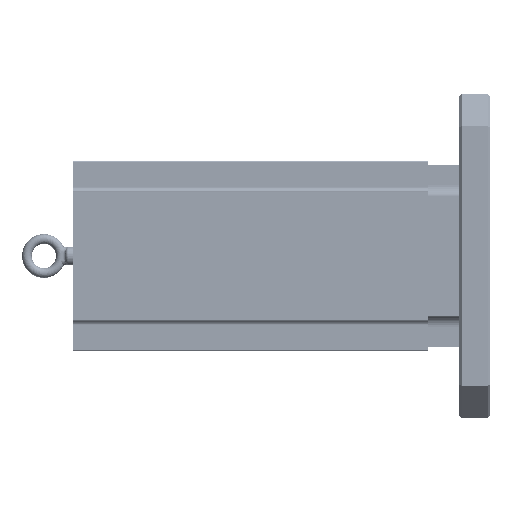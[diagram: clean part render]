
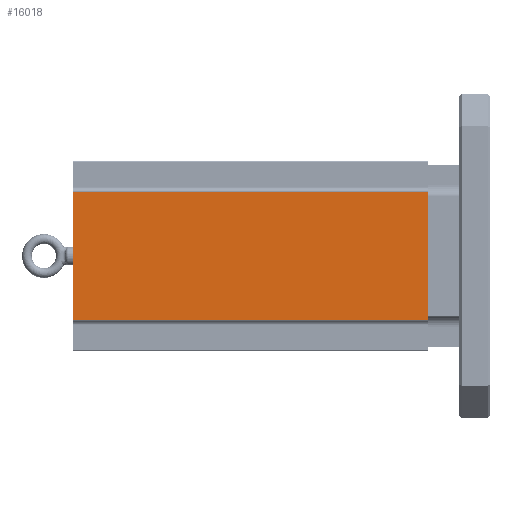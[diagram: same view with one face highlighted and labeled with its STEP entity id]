
A CAD part, left-side view. The second image highlights one B-rep face of the part: STEP entity #16018.
In plain terms, the highlighted planar face has unit normal (-1, 0, 0).
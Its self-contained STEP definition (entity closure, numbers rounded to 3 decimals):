
#2206 = CARTESIAN_POINT ( 'NONE',  ( -116.992, 477., 78.511 ) ) ;
#2559 = VECTOR ( 'NONE', #7836, 1000. ) ;
#2673 = DIRECTION ( 'NONE',  ( 0., 0., -1. ) ) ;
#4322 = CARTESIAN_POINT ( 'NONE',  ( -116.992, 477., -79.273 ) ) ;
#6578 = LINE ( 'NONE', #16836, #26411 ) ;
#6759 = EDGE_CURVE ( 'NONE', #19067, #8105, #30926, .T. ) ;
#7836 = DIRECTION ( 'NONE',  ( 0., 1., 0. ) ) ;
#8072 = DIRECTION ( 'NONE',  ( 1., 0., 0. ) ) ;
#8105 = VERTEX_POINT ( 'NONE', #26672 ) ;
#10070 = CARTESIAN_POINT ( 'NONE',  ( -116.992, 38.1, 78.511 ) ) ;
#10299 = PLANE ( 'NONE',  #23777 ) ;
#11392 = ORIENTED_EDGE ( 'NONE', *, *, #20753, .T. ) ;
#13711 = EDGE_CURVE ( 'NONE', #19067, #31861, #28656, .T. ) ;
#13828 = EDGE_CURVE ( 'NONE', #21363, #8105, #6578, .T. ) ;
#14372 = DIRECTION ( 'NONE',  ( 0., -1., 0. ) ) ;
#15383 = ORIENTED_EDGE ( 'NONE', *, *, #13711, .F. ) ;
#16018 = ADVANCED_FACE ( 'NONE', ( #27906 ), #10299, .F. ) ;
#16836 = CARTESIAN_POINT ( 'NONE',  ( -116.992, 477., -79.273 ) ) ;
#17344 = CARTESIAN_POINT ( 'NONE',  ( -116.992, 38.1, -78.511 ) ) ;
#19067 = VERTEX_POINT ( 'NONE', #10070 ) ;
#19303 = VECTOR ( 'NONE', #2673, 1000. ) ;
#20161 = CARTESIAN_POINT ( 'NONE',  ( -116.992, 477., -78.511 ) ) ;
#20753 = EDGE_CURVE ( 'NONE', #21363, #31861, #29609, .T. ) ;
#21144 = CARTESIAN_POINT ( 'NONE',  ( -116.992, 38.1, -79.273 ) ) ;
#21363 = VERTEX_POINT ( 'NONE', #20161 ) ;
#22481 = ORIENTED_EDGE ( 'NONE', *, *, #13828, .F. ) ;
#23777 = AXIS2_PLACEMENT_3D ( 'NONE', #4322, #8072, #23977 ) ;
#23977 = DIRECTION ( 'NONE',  ( 0., 0., -1. ) ) ;
#24990 = CARTESIAN_POINT ( 'NONE',  ( -116.992, 477., -78.511 ) ) ;
#25721 = EDGE_LOOP ( 'NONE', ( #15383, #28866, #22481, #11392 ) ) ;
#26411 = VECTOR ( 'NONE', #27099, 1000. ) ;
#26672 = CARTESIAN_POINT ( 'NONE',  ( -116.992, 477., 78.511 ) ) ;
#27099 = DIRECTION ( 'NONE',  ( 0., 0., 1. ) ) ;
#27906 = FACE_OUTER_BOUND ( 'NONE', #25721, .T. ) ;
#28656 = LINE ( 'NONE', #21144, #19303 ) ;
#28866 = ORIENTED_EDGE ( 'NONE', *, *, #6759, .T. ) ;
#29583 = VECTOR ( 'NONE', #14372, 1000. ) ;
#29609 = LINE ( 'NONE', #24990, #29583 ) ;
#30926 = LINE ( 'NONE', #2206, #2559 ) ;
#31861 = VERTEX_POINT ( 'NONE', #17344 ) ;
